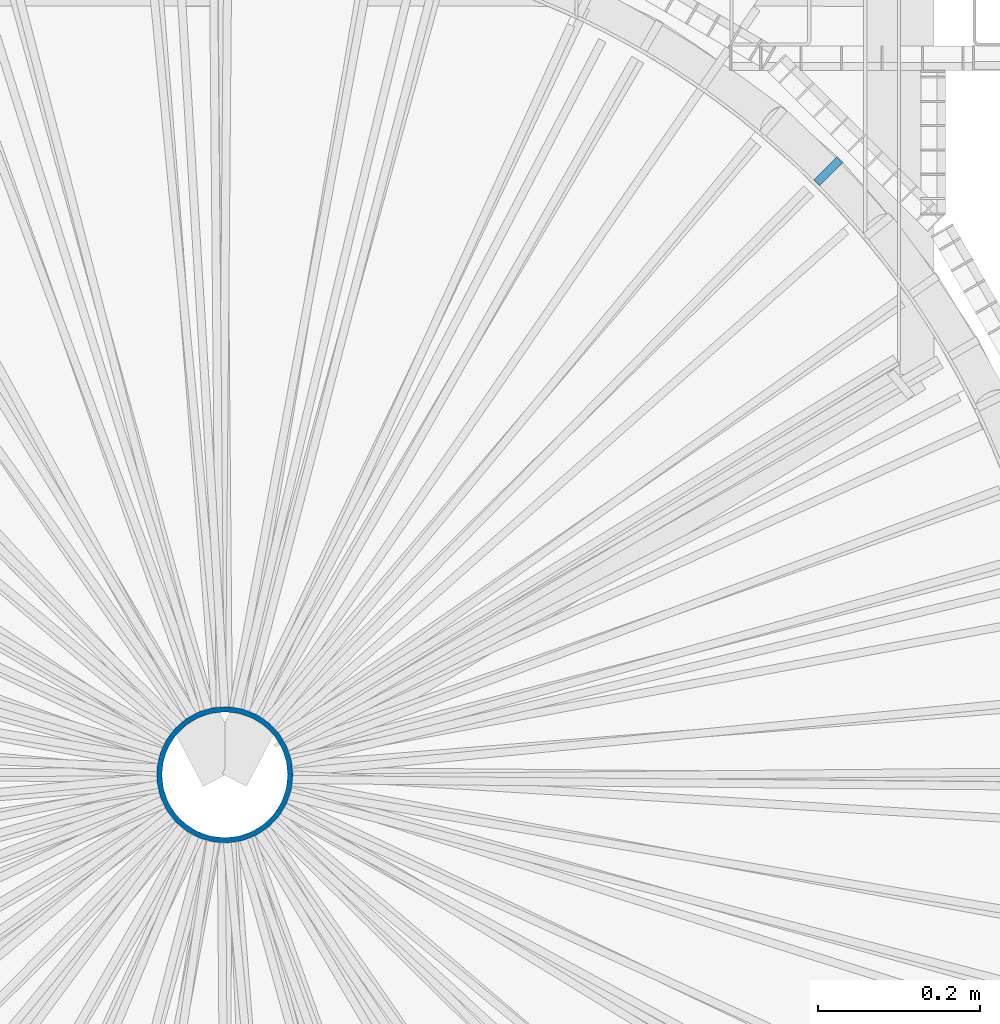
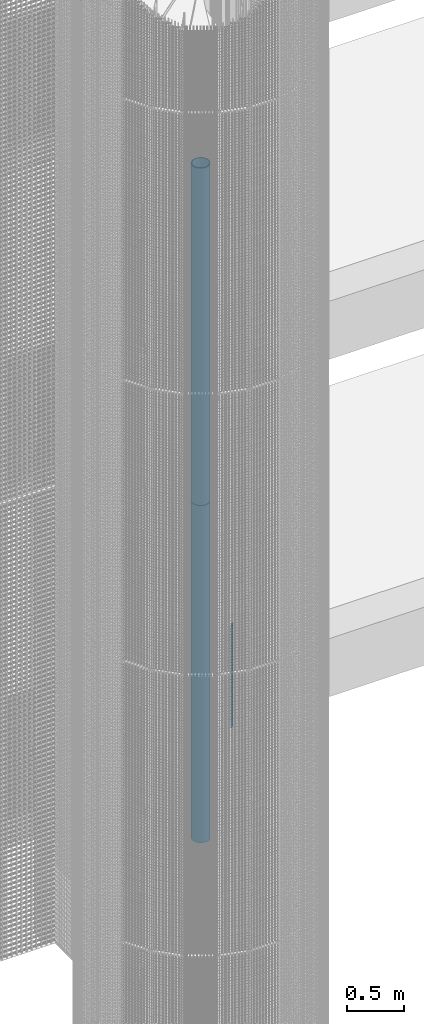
# One storey, part 51 of 1148: 3 columns, 3 elements without a shape of their own.
"""IFC2X3 building model written with IfcOpenShell, lengths in millimetres."""

from ifc_helpers import new_model, si_unit, frame, origin_with_axes, origin_2d_with_axis, place, context, subcontext, project, spatial, rectangle, hollow_circle, extrude, material, type_object, element, aggregate, save


model = new_model("IFC2X3")

# Units and contexts
model_context = context("Model", 3, precision=1e-05, world=origin_with_axes())
body_context = subcontext(model_context, "Body", "Model", "MODEL_VIEW")
ifc_project = project(units=[si_unit("LENGTHUNIT", "METRE", prefix="MILLI"), si_unit("AREAUNIT", "SQUARE_METRE"), si_unit("VOLUMEUNIT", "CUBIC_METRE"), si_unit("MASSUNIT", "GRAM", prefix="KILO"), si_unit("TIMEUNIT", "SECOND"), si_unit("PLANEANGLEUNIT", "RADIAN"), si_unit("SOLIDANGLEUNIT", "STERADIAN"), si_unit("THERMODYNAMICTEMPERATUREUNIT", "DEGREE_CELSIUS"), si_unit("LUMINOUSINTENSITYUNIT", "LUMEN")], contexts=[model_context])

# Site, building, storey
site_placement = place(None, origin_with_axes())
site = spatial("IfcSite", under=ifc_project, at=site_placement, Name="Undefined", CompositionType="ELEMENT")
building_placement = place(site_placement, origin_with_axes())
building = spatial("IfcBuilding", under=site, at=building_placement, Name="Undefined", CompositionType="ELEMENT")
storey_placement = place(building_placement, origin_with_axes())
storey = spatial("IfcBuildingStorey", under=building, at=storey_placement, Name="Undefined", CompositionType="ELEMENT", Elevation=0.0)

# Assembly, column
assembly_1_placement = place(storey_placement, origin_with_axes())
assembly_1 = element("IfcElementAssembly", 1, at=assembly_1_placement, inside=storey, Name="MONTANT", AssemblyPlace="NOTDEFINED", PredefinedType="NOTDEFINED")
ifc_material = material(Name="STEEL/S235JR")
column_type_1 = type_object("IfcColumnType", Name="PL10*40", PredefinedType="NOTDEFINED")
column_1_placement = place(assembly_1_placement, frame((22345.2905473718, 745.290547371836, 6959.56), z_axis=(0.0, 0.0, 1.0), x_axis=(-0.70710678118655, -0.707106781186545, 0.0)))
column_1 = element("IfcColumn", 2, at=column_1_placement, type_object=column_type_1, material=ifc_material, Name="MONTANT", context=body_context, shape_type="SweptSolid", body=[
    extrude(rectangle(XDim=10.0, YDim=40.0, at=origin_2d_with_axis()), frame((0.0, 0.0, 1100.0), z_axis=(0.0, 0.0, -1.0), x_axis=(0.0, 1.0, 0.0)), (0.0, 0.0, 1.0), 1100.0),
])
aggregate(assembly_1, [column_1])

assembly_2_placement = place(storey_placement, origin_with_axes())
assembly_2 = element("IfcElementAssembly", 3, at=assembly_2_placement, inside=storey, Name="POTEAU", AssemblyPlace="NOTDEFINED", PredefinedType="NOTDEFINED")
column_type_2 = type_object("IfcColumnType", Name="TUBE-168.3*6.3", PredefinedType="NOTDEFINED")
column_2_placement = place(assembly_2_placement, frame((21600.0, 0.0, 10090.0), z_axis=(0.0, 0.0, 1.0), x_axis=(-0.422618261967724, -0.906307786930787, 0.0)))
column_2 = element("IfcColumn", 4, at=column_2_placement, type_object=column_type_2, material=ifc_material, Name="POTEAU", context=body_context, shape_type="SweptSolid", body=[
    extrude(hollow_circle(Radius=84.15000155, WallThickness=6.300000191, at=origin_2d_with_axis()), frame((0.0, 0.0, 3600.0), z_axis=(0.0, 0.0, -1.0), x_axis=(0.0, 1.0, 0.0)), (0.0, 0.0, 1.0), 3600.0),
])
aggregate(assembly_2, [column_2])

assembly_3_placement = place(storey_placement, origin_with_axes())
assembly_3 = element("IfcElementAssembly", 5, at=assembly_3_placement, inside=storey, Name="POTEAU", AssemblyPlace="NOTDEFINED", PredefinedType="NOTDEFINED")
column_3_placement = place(assembly_3_placement, frame((21600.0, 0.0, 6490.0), z_axis=(0.0, 0.0, 1.0), x_axis=(0.0, -1.0, 0.0)))
column_3 = element("IfcColumn", 6, at=column_3_placement, type_object=column_type_2, material=ifc_material, Name="POTEAU", context=body_context, shape_type="SweptSolid", body=[
    extrude(hollow_circle(Radius=84.15000155, WallThickness=6.300000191, at=origin_2d_with_axis()), frame((0.0, 0.0, 3600.0), z_axis=(0.0, 0.0, -1.0), x_axis=(0.0, 1.0, 0.0)), (0.0, 0.0, 1.0), 3600.0),
])
aggregate(assembly_3, [column_3])

save(model, "model.ifc")
